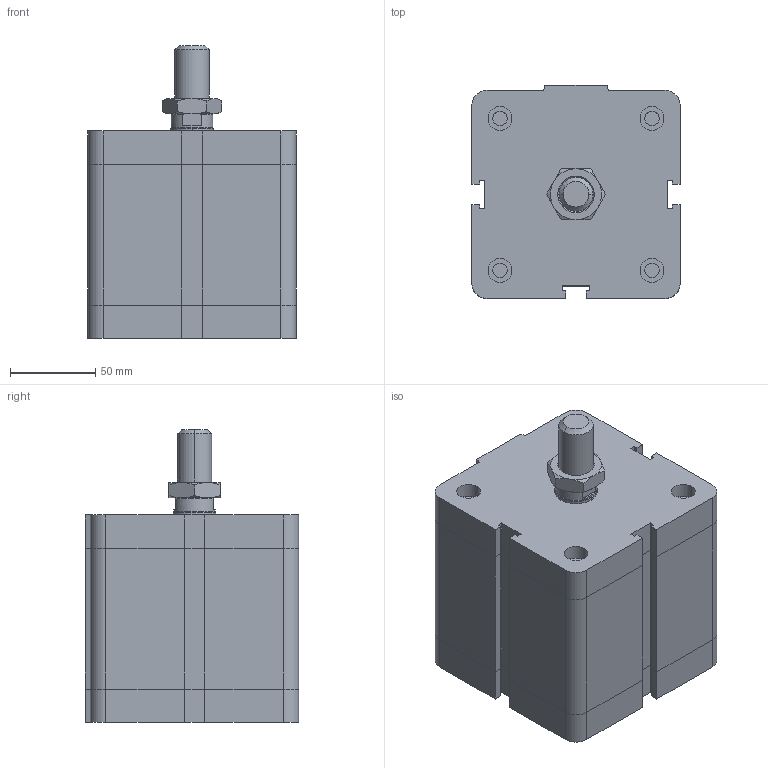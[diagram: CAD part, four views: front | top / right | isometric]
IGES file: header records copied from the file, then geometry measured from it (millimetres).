
Global section: file name: No Iges File Name specified; native system: Autodesk Inventor 2009; preprocessor: AutoDesk Inventor Iges Exporter R2009; author: rivolro1; date: 20081219.161010; units: millimetre
Bounding box: 122 x 125 x 171.5 mm (x, y, z)
Volume: 1778253.9 mm3; surface area: 120961.9 mm2
Topology: 3 solids, 3 shells, 216 faces, 472 edges, 282 vertices
Faces by surface type: plane 121, bspline 37, cylinder 20, cone 20, revolution 18
